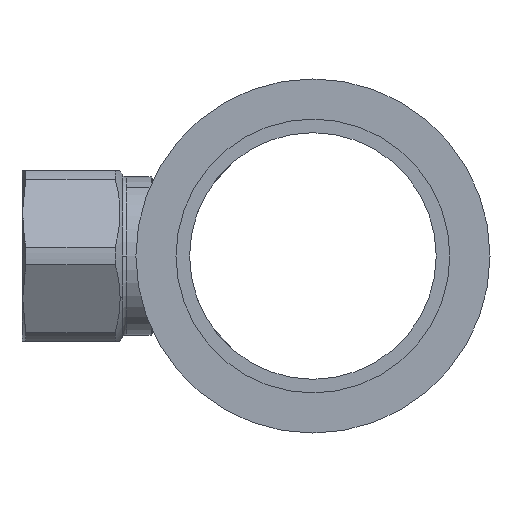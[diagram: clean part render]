
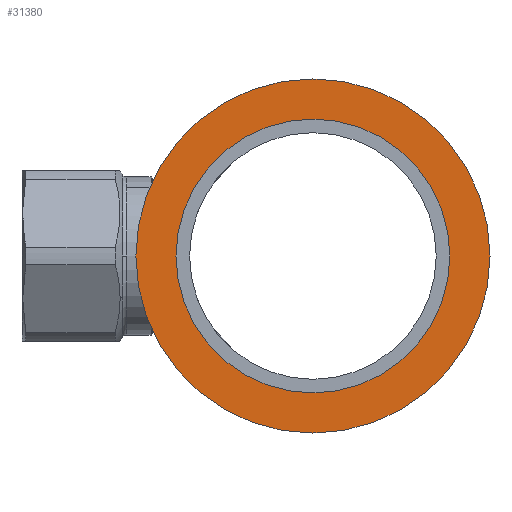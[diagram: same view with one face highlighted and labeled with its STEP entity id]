
A CAD part, left-side view. The second image highlights one B-rep face of the part: STEP entity #31380.
In plain terms, the highlighted planar face has unit normal (-1, 0, 0).
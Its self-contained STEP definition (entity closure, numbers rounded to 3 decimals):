
#30900=CARTESIAN_POINT('',(55.082,52.567,-21.65));
#30910=VERTEX_POINT('',#30900);
#30940=CARTESIAN_POINT('',(55.082,52.567,0.));
#30950=DIRECTION('',(1.,0.,0.));
#30960=DIRECTION('',(0.,0.,1.));
#30970=AXIS2_PLACEMENT_3D('',#30940,#30950,#30960);
#30980=CIRCLE('',#30970,21.65);
#30990=CARTESIAN_POINT('',(55.082,52.567,21.65));
#31000=VERTEX_POINT('',#30990);
#31010=EDGE_CURVE('',#30910,#31000,#30980,.T.);
#31130=CARTESIAN_POINT('',(55.082,52.567,26.425));
#31140=DIRECTION('',(-1.,0.,0.));
#31150=DIRECTION('',(0.,0.,1.));
#31160=AXIS2_PLACEMENT_3D('',#31130,#31140,#31150);
#31170=PLANE('',#31160);
#31180=EDGE_CURVE('',#31000,#30910,#30980,.T.);
#31190=ORIENTED_EDGE('',*,*,#31180,.T.);
#31200=ORIENTED_EDGE('',*,*,#31010,.T.);
#31210=EDGE_LOOP('',(#31200,#31190));
#31220=FACE_BOUND('',#31210,.T.);
#31230=CARTESIAN_POINT('',(55.082,52.567,0.));
#31240=DIRECTION('',(1.,0.,0.));
#31250=DIRECTION('',(0.,0.,1.));
#31260=AXIS2_PLACEMENT_3D('',#31230,#31240,#31250);
#31270=CIRCLE('',#31260,28.);
#31280=CARTESIAN_POINT('',(55.082,52.567,28.));
#31290=VERTEX_POINT('',#31280);
#31300=CARTESIAN_POINT('',(55.082,52.567,-28.));
#31310=VERTEX_POINT('',#31300);
#31320=EDGE_CURVE('',#31290,#31310,#31270,.T.);
#31330=ORIENTED_EDGE('',*,*,#31320,.F.);
#31340=EDGE_CURVE('',#31310,#31290,#31270,.T.);
#31350=ORIENTED_EDGE('',*,*,#31340,.F.);
#31360=EDGE_LOOP('',(#31350,#31330));
#31370=FACE_OUTER_BOUND('',#31360,.T.);
#31380=ADVANCED_FACE('',(#31220,#31370),#31170,.T.);
